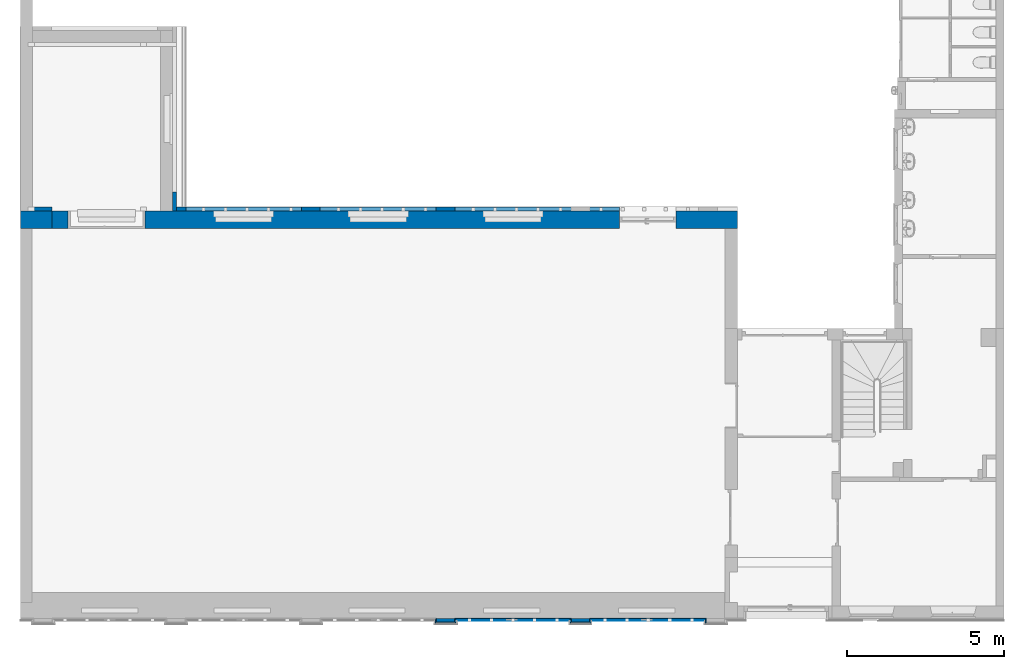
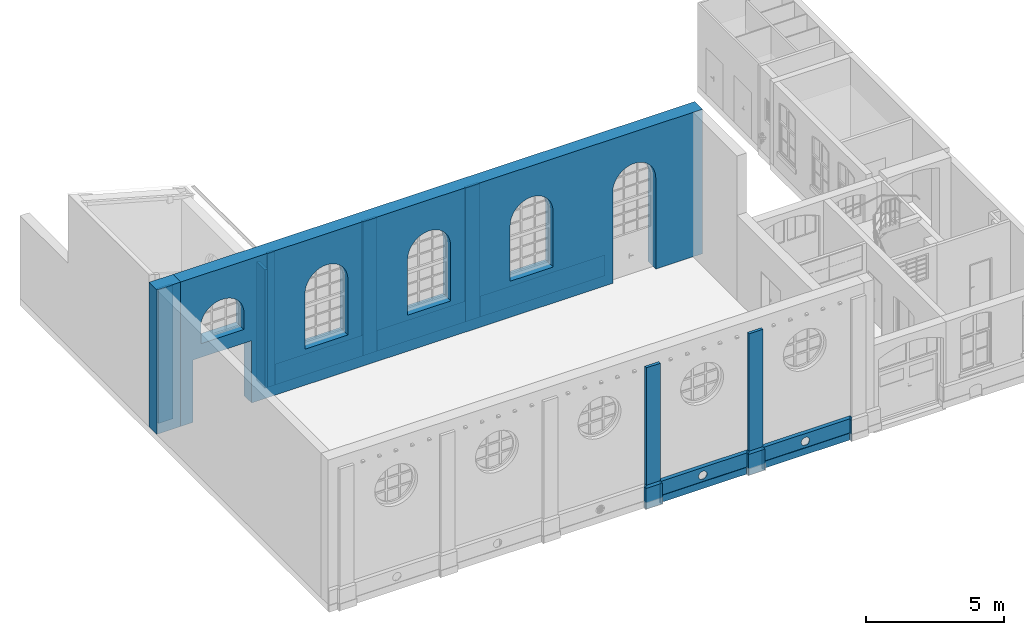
"""IFC4 building model written with IfcOpenShell, lengths in metres."""

import ifcopenshell
import ifcopenshell.guid

model = None  # the IFC model being written
_history = None  # IfcOwnerHistory: only IFC2X3 demands one
_inside = {}  # id of a spatial element -> (the spatial element, [elements in it])
_under = {}  # id of a project, library or spatial element -> (it, [spatial elements below it])
_declared = {}  # id of a project -> (the project, [libraries it declares])
_typed = {}  # id of a type object -> (the type object, [elements of that type])
_made_of = {}  # id of a material, layer set ... -> (it, [elements and type objects made of it])


def new_model(schema):
    """Start an empty IFC model of exactly this schema.

    Asked for "IFC4X3", IfcOpenShell would pick the latest addendum, in which some entities
    have other attributes; the version numbers below select the first issue.
    IFC2X3 requires an IfcOwnerHistory on every rooted entity: one is made here for all.
    """
    global model, _history
    if schema == "IFC4X3":
        model = ifcopenshell.file(schema_version=(4, 3, 0, 0))
    else:
        model = ifcopenshell.file(schema=schema)
    _inside.clear()
    _under.clear()
    _declared.clear()
    _typed.clear()
    _made_of.clear()
    _history = None
    if model.schema == "IFC2X3":
        org = make("IfcOrganization", Name="unknown")
        user = make(
            "IfcPersonAndOrganization",
            ThePerson=make("IfcPerson", FamilyName="unknown"),
            TheOrganization=org,
        )
        app = make(
            "IfcApplication",
            ApplicationDeveloper=org,
            Version="unknown",
            ApplicationFullName="unknown",
            ApplicationIdentifier="unknown",
        )
        _history = make(
            "IfcOwnerHistory",
            OwningUser=user,
            OwningApplication=app,
            ChangeAction="ADDED",
            CreationDate=0,
        )
    return model


def make(cls, **values):
    """One entity of the class cls with the attributes given. An attribute that is None is left unset."""
    return model.create_entity(
        cls, **{name: value for name, value in values.items() if value is not None}
    )


def entity(cls, *values):
    """Any entity or typed value of the class cls, its attributes in the order of the schema. None: left unset."""
    e = model.create_entity(cls)
    for i, value in enumerate(values):
        if value is not None:
            e[i] = value
    return e


def rooted(cls, **values):
    """An entity with a GlobalId (a new one), such as an element, a storey or a relation."""
    return make(cls, GlobalId=ifcopenshell.guid.new(), OwnerHistory=_history, **values)


def si_unit(unit_type, name, prefix=None):
    """IfcSIUnit, for example si_unit("LENGTHUNIT", "METRE", prefix="MILLI")."""
    return make("IfcSIUnit", UnitType=unit_type, Prefix=prefix, Name=name)


def converted_unit(unit_type, name, factor, base, dimensions=None, offset=None):
    """IfcConversionBasedUnit, such as the inch: factor (a typed value) times the base unit."""
    return make(
        "IfcConversionBasedUnit"
        if offset is None
        else "IfcConversionBasedUnitWithOffset",
        ConversionOffset=offset,
        Dimensions=None
        if dimensions is None
        else entity("IfcDimensionalExponents", *dimensions),
        UnitType=unit_type,
        Name=name,
        ConversionFactor=make(
            "IfcMeasureWithUnit", ValueComponent=factor, UnitComponent=base
        ),
    )


def derived_unit(unit_type, elements):
    """IfcDerivedUnit: a product of units, each with its exponent."""
    return make(
        "IfcDerivedUnit",
        Elements=[
            make("IfcDerivedUnitElement", Unit=unit, Exponent=power)
            for unit, power in elements
        ],
        UnitType=unit_type,
    )


def assignment(units):
    """IfcUnitAssignment: the units of a project."""
    return None if units is None else make("IfcUnitAssignment", Units=units)


def point(xyz):
    """IfcCartesianPoint."""
    return None if xyz is None else make("IfcCartesianPoint", Coordinates=xyz)


def direction(xyz):
    """IfcDirection."""
    return None if xyz is None else make("IfcDirection", DirectionRatios=xyz)


def frame(location, z_axis=None, x_axis=None):
    """IfcAxis2Placement3D, a coordinate frame: its origin and axes. An axis left out is left unset."""
    return make(
        "IfcAxis2Placement3D",
        Location=point(location),
        Axis=direction(z_axis),
        RefDirection=direction(x_axis),
    )


def frame_2d(location, x_axis=None):
    """IfcAxis2Placement2D, a coordinate frame in the plane: its origin and x axis."""
    return make(
        "IfcAxis2Placement2D", Location=point(location), RefDirection=direction(x_axis)
    )


def origin():
    """The frame at (0, 0, 0) with its axes left unset."""
    return frame((0.0, 0.0, 0.0))


def origin_with_axes():
    """The frame at (0, 0, 0) with the z axis (0, 0, 1) and the x axis (1, 0, 0) written out."""
    return frame((0.0, 0.0, 0.0), z_axis=(0.0, 0.0, 1.0), x_axis=(1.0, 0.0, 0.0))


def place(relative_to, where):
    """IfcLocalPlacement: puts the frame where relative to a parent placement (None: the world)."""
    return make(
        "IfcLocalPlacement", PlacementRelTo=relative_to, RelativePlacement=where
    )


def context(
    kind, dimensions, precision=None, world=None, true_north=None, identifier=None
):
    """IfcGeometricRepresentationContext, for example the 3D "Model" context."""
    return make(
        "IfcGeometricRepresentationContext",
        ContextIdentifier=identifier,
        ContextType=kind,
        CoordinateSpaceDimension=dimensions,
        Precision=precision,
        WorldCoordinateSystem=world,
        TrueNorth=true_north,
    )


def subcontext(parent, identifier, kind, view, scale=None):
    """IfcGeometricRepresentationSubContext, for example "Body" below "Model"."""
    return make(
        "IfcGeometricRepresentationSubContext",
        ContextIdentifier=identifier,
        ContextType=kind,
        ParentContext=parent,
        TargetScale=scale,
        TargetView=view,
    )


def project(units=None, contexts=None):
    """IfcProject with its units and contexts."""
    return rooted(
        "IfcProject",
        Name="project",
        RepresentationContexts=contexts,
        UnitsInContext=assignment(units),
    )


def spatial(cls, under=None, at=None, **own):
    """A site, building, storey or space (cls), placed at a placement, below another one or the project."""
    s = rooted(cls, ObjectPlacement=at, **own)
    if under is not None:
        _under.setdefault(under.id(), (under, []))[1].append(s)
    return s


def polyline(points):
    """IfcPolyline through the points."""
    return make("IfcPolyline", Points=[point(p) for p in points])


def profile(cls, at=None, kind="AREA", **sizes):
    """A parametric profile (cls). Its sizes go by their IFC names, for example OverallWidth=200.0."""
    return make(cls, ProfileType=kind, Position=at, **sizes)


def rectangle(**sizes):
    """IfcRectangleProfileDef."""
    return profile("IfcRectangleProfileDef", **sizes)


def outline(outer, holes=None, kind="AREA"):
    """IfcArbitraryClosedProfileDef: a profile drawn as a closed curve; with holes, ...WithVoids."""
    if holes is None:
        return make("IfcArbitraryClosedProfileDef", ProfileType=kind, OuterCurve=outer)
    return make(
        "IfcArbitraryProfileDefWithVoids",
        ProfileType=kind,
        OuterCurve=outer,
        InnerCurves=holes,
    )


def extrude(swept, where, along, depth):
    """IfcExtrudedAreaSolid: the profile swept, set in the frame where, extruded along a direction by depth."""
    return make(
        "IfcExtrudedAreaSolid",
        SweptArea=swept,
        Position=where,
        ExtrudedDirection=direction(along),
        Depth=depth,
    )


def clip(a, b, op="DIFFERENCE"):
    """IfcBooleanClippingResult: the solid a cut by the half space b."""
    return make(
        "IfcBooleanClippingResult", Operator=op, FirstOperand=a, SecondOperand=b
    )


def halfspace(plane, agree):
    """IfcHalfSpaceSolid: all space on one side of the plane z = 0 of the frame plane."""
    return make(
        "IfcHalfSpaceSolid",
        BaseSurface=make("IfcPlane", Position=plane),
        AgreementFlag=agree,
    )


def shape(context_of_items, identifier, shape_type, items):
    """IfcShapeRepresentation: the items that make up one representation, for example the "Body"."""
    return make(
        "IfcShapeRepresentation",
        ContextOfItems=context_of_items,
        RepresentationIdentifier=identifier,
        RepresentationType=shape_type,
        Items=items,
    )


def material(Name=None, Category=None):
    """IfcMaterial."""
    return make("IfcMaterial", Name=Name, Category=Category)


def layer(
    of_material, thickness, ventilated=None, Name=None, Category=None, Priority=None
):
    """IfcMaterialLayer: one layer of a wall or slab, of a material (None: an air gap)."""
    return make(
        "IfcMaterialLayer",
        Material=of_material,
        LayerThickness=thickness,
        IsVentilated=ventilated,
        Name=Name,
        Category=Category,
        Priority=Priority,
    )


def layer_set(layers, Name=None):
    """IfcMaterialLayerSet."""
    return make("IfcMaterialLayerSet", MaterialLayers=layers, LayerSetName=Name)


def layer_usage(for_layer_set, set_direction, sense, offset, extent=None):
    """IfcMaterialLayerSetUsage: how a layer set lies in its element."""
    return make(
        "IfcMaterialLayerSetUsage",
        ForLayerSet=for_layer_set,
        LayerSetDirection=set_direction,
        DirectionSense=sense,
        OffsetFromReferenceLine=offset,
        ReferenceExtent=extent,
    )


def made_of(thing, what):
    """Note that an element or type object is made of a material, layer set ...; save() writes the relation."""
    if what is not None:
        _made_of.setdefault(what.id(), (what, []))[1].append(thing)
    return thing


def element(
    cls,
    number,
    at=None,
    inside=None,
    cuts=None,
    type_object=None,
    material=None,
    context=None,
    identifier="Body",
    shape_type=None,
    held_by="IfcProductDefinitionShape",
    body=None,
    shapes=None,
    **own,
):
    """One element of the class cls, such as IfcWall. Its Tag is "e" and its number.

    at: its placement. inside: the storey or other place that contains it. cuts: it is an
    opening in that element (IfcRelVoidsElement). A single representation is given by context,
    identifier, shape_type and body (its items); several are given by shapes. held_by: the class
    of the entity that holds the representations. save() writes the other relations.
    """
    e = rooted(cls, Tag="e%d" % number, ObjectPlacement=at, **own)
    if body is not None:
        shapes = [shape(context, identifier, shape_type, body)]
    if shapes is not None:
        e.Representation = make(held_by, Representations=shapes)
    if inside is not None:
        _inside.setdefault(inside.id(), (inside, []))[1].append(e)
    if cuts is not None:
        rooted(
            "IfcRelVoidsElement", RelatingBuildingElement=cuts, RelatedOpeningElement=e
        )
    if type_object is not None:
        _typed.setdefault(type_object.id(), (type_object, []))[1].append(e)
    return made_of(e, material)


def aggregate(whole, parts):
    """IfcRelAggregates: a whole, such as a stair, and the parts it consists of."""
    return rooted("IfcRelAggregates", RelatingObject=whole, RelatedObjects=parts)


def save(model, path):
    """Write the relations noted so far, then the file.

    IfcRelAggregates (storeys below a building ...), IfcRelContainedInSpatialStructure (elements
    in a storey), IfcRelDefinesByType, IfcRelAssociatesMaterial and IfcRelDeclares: one each for
    every whole, place, type object, material and project.
    """
    for whole, parts in _under.values():
        aggregate(whole, parts)
    for where, things in _inside.values():
        rooted(
            "IfcRelContainedInSpatialStructure",
            RelatedElements=things,
            RelatingStructure=where,
        )
    for kind, things in _typed.values():
        rooted("IfcRelDefinesByType", RelatedObjects=things, RelatingType=kind)
    for what, things in _made_of.values():
        rooted("IfcRelAssociatesMaterial", RelatedObjects=things, RelatingMaterial=what)
    for by, libraries in _declared.values():
        rooted("IfcRelDeclares", RelatingContext=by, RelatedDefinitions=libraries)
    model.write(path)


model = new_model("IFC4")

# Units and contexts
model_context = context("Model", 3, precision=1e-05, world=origin())
body_context = subcontext(model_context, "Body", "Model", "MODEL_VIEW")
ifc_project = project(units=[si_unit("LENGTHUNIT", "METRE"), si_unit("AREAUNIT", "SQUARE_METRE"), si_unit("VOLUMEUNIT", "CUBIC_METRE"), si_unit("MASSUNIT", "GRAM", prefix="KILO"), converted_unit("PLANEANGLEUNIT", "DEGREE", entity("IfcPlaneAngleMeasure", 0.0174532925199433), si_unit("PLANEANGLEUNIT", "RADIAN"), dimensions=[0, 0, 0, 0, 0, 0, 0]), derived_unit("THERMALTRANSMITTANCEUNIT", [(si_unit("POWERUNIT", "WATT"), 1), (si_unit("THERMODYNAMICTEMPERATUREUNIT", "KELVIN"), -1), (si_unit("LENGTHUNIT", "METRE"), -2)]), derived_unit("VOLUMETRICFLOWRATEUNIT", [(si_unit("LENGTHUNIT", "METRE"), 3), (converted_unit("TIMEUNIT", "hour", entity("IfcTimeMeasure", 3600.0), si_unit("TIMEUNIT", "SECOND"), dimensions=[0, 0, 1, 0, 0, 0, 0]), -1), (si_unit("LENGTHUNIT", "METRE"), -1)])], contexts=[model_context])

# Building, storeys
building_placement = place(None, origin())
building = spatial("IfcBuilding", under=ifc_project, at=building_placement, Name="Bestandsgebäude A - Sporthalle / Wohnhaus (TB 100-499)   ANPASSEN !!!", CompositionType="ELEMENT")
storey_1_placement = place(building_placement, origin())
storey_1 = spatial("IfcBuildingStorey", under=building, at=storey_1_placement, Name="Geb. A Erdgeschoss (TB 200-249)", CompositionType="ELEMENT", Elevation=0.0)
storey_2_placement = place(storey_1_placement, origin())
storey_2 = spatial("IfcBuildingStorey", under=storey_1, at=storey_2_placement, Name="Architektur (TB 200-209)", CompositionType="PARTIAL")

# Wall, openings
ifc_material_1 = material(Name="concrete")
ifc_layer_1 = layer(ifc_material_1, 0.56)
ifc_layer_set_1 = layer_set([ifc_layer_1])
ifc_layer_usage_1 = layer_usage(ifc_layer_set_1, "AXIS2", "POSITIVE", 0.0)
wall_1_placement = place(storey_2_placement, frame((-8.5, 13.0, 0.0), z_axis=(0.0, 0.0, 1.0), x_axis=(-1.0, 1.66345624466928e-16, 0.0)))
wall_1 = element("IfcWall", 1, at=wall_1_placement, inside=storey_2, material=ifc_layer_usage_1, Name="reinforced - bearing", PredefinedType="USERDEFINED", context=body_context, shape_type="SweptSolid", body=[
    extrude(rectangle(XDim=21.87, YDim=0.56, at=frame_2d((10.935, 0.28), x_axis=(1.0, 0.0))), origin_with_axes(), (0.0, 0.0, 1.0), 6.4),
])
opening_1_placement = place(wall_1_placement, frame((1.95999999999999, 0.0, 0.0), z_axis=(0.0, 1.0, 0.0), x_axis=(0.0, 0.0, 1.0)))
element("IfcOpeningElement", 2, at=opening_1_placement, cuts=wall_1, Name="Door opening", PredefinedType="OPENING", context=body_context, shape_type="SweptSolid", body=[
    extrude(outline(polyline([(4.03999999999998, 1.8), (4.1403473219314, 1.79506970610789), (4.23959521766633, 1.78033284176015), (4.33665630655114, 1.7559508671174), (4.4304671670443, 1.72219091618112), (4.51999998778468, 1.67942287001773), (4.60427382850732, 1.62811530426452), (4.68236536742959, 1.56883035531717), (4.75341901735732, 1.5022175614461), (4.81665629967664, 1.42900674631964), (4.87138437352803, 1.35000002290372), (4.91700362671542, 1.26606300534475), (4.95301424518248, 1.17811532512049), (4.97902168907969, 1.08712055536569), (4.99474101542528, 0.994075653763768), (5.0, 0.900000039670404), (4.99474102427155, 0.805924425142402), (4.9790217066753, 0.71287952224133), (4.95301427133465, 0.621884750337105), (4.91700366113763, 0.533937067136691), (4.87138441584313, 0.450000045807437), (4.81665634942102, 0.370993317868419), (4.75341907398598, 0.297782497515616), (4.68236543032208, 0.231169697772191), (4.60427389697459, 0.171884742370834), (4.52000006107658, 0.120577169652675), (4.43046724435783, 0.0778091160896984), (4.33665638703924, 0.0440491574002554), (4.23959530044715, 0.0196671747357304), (4.14034740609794, 0.00493030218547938), (4.04000008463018, 0.0), (0.0, 0.0), (0.0, 1.8), (4.03999999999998, 1.8)])), origin_with_axes(), (0.0, 0.0, 1.0), 0.56),
])
opening_2_placement = place(wall_1_placement, frame((6.26357142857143, 0.0, 1.6), z_axis=(0.0, 1.0, 0.0), x_axis=(0.0, 0.0, 1.0)))
element("IfcOpeningElement", 3, at=opening_2_placement, cuts=wall_1, Name="Window opening", PredefinedType="OPENING", context=body_context, shape_type="SweptSolid", body=[
    extrude(outline(polyline([(2.46000001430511, 1.7964285), (2.56034733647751, 1.79150798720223), (2.65959523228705, 1.77680036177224), (2.75665632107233, 1.75246676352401), (2.8504671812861, 1.71877379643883), (2.94000000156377, 1.67609060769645), (3.02427384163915, 1.62488484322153), (3.10236537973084, 1.56571752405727), (3.17341902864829, 1.49923689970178), (3.23665630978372, 1.42617134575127), (3.29138438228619, 1.34732138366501), (3.33700363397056, 1.2635509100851), (3.37301425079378, 1.17577773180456), (3.39902169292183, 1.08496351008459), (3.41474101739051, 0.992103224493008), (3.42, 0.898214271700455), (3.4147410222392, 0.804325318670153), (3.39902170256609, 0.711465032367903), (3.37301426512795, 0.620650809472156), (3.33700365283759, 0.532877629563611), (3.29138440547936, 0.449107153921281), (3.23665633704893, 0.370257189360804), (3.17341905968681, 0.297191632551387), (3.10236541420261, 0.230711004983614), (3.0242738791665, 0.17154368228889), (2.94000004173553, 0.120337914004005), (2.85046722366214, 0.0776547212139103), (2.75665636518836, 0.0439617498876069), (2.65959527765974, 0.0196281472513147), (2.56034738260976, 0.00492051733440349), (2.46000006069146, 0.0), (0.0, 0.0), (0.0, 1.7964285), (2.46000001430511, 1.7964285)])), origin_with_axes(), (0.0, 0.0, 1.0), 0.56),
])
opening_3_placement = place(wall_1_placement, frame((10.56, 0.0, 1.6), z_axis=(0.0, 1.0, 0.0), x_axis=(0.0, 0.0, 1.0)))
element("IfcOpeningElement", 4, at=opening_3_placement, cuts=wall_1, Name="Window opening", PredefinedType="OPENING", context=body_context, shape_type="SweptSolid", body=[
    extrude(outline(polyline([(2.46000001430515, 1.7964285), (2.56034733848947, 1.79150798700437), (2.65959523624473, 1.77680036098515), (2.75665632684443, 1.75246676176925), (2.85046718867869, 1.71877379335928), (2.94000001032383, 1.67609060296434), (3.02427385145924, 1.62488483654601), (3.10236539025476, 1.56571751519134), (3.17341903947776, 1.49923688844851), (3.23665632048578, 1.42617133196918), (3.29138439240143, 1.3473213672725), (3.33700364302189, 1.2635508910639), (3.37301425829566, 1.17577771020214), (3.39902169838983, 1.08496348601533), (3.41474102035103, 0.992103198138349), (3.42, 0.898214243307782), (3.41474101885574, 0.804325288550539), (3.39902169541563, 0.711465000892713), (3.37301425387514, 0.620650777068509), (3.33700363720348, 0.532877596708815), (3.29138438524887, 0.449107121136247), (3.23665631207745, 0.370257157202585), (3.17341902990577, 0.297191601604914), (3.10236537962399, 0.230710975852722), (3.02427383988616, 0.171543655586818), (2.93999999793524, 0.120337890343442), (2.85046717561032, 0.077654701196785), (2.75665631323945, 0.0439617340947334), (2.6595952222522, 0.0196281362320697), (2.56034732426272, 0.00492051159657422), (2.46, 0.0), (0.0, 0.0), (0.0, 1.7964285), (2.46000001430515, 1.7964285)])), origin_with_axes(), (0.0, 0.0, 1.0), 0.56),
])
opening_4_placement = place(wall_1_placement, frame((14.86, 0.0, 1.6), z_axis=(0.0, 1.0, 0.0), x_axis=(0.0, 0.0, 1.0)))
element("IfcOpeningElement", 5, at=opening_4_placement, cuts=wall_1, Name="Window opening", PredefinedType="OPENING", context=body_context, shape_type="SweptSolid", body=[
    extrude(outline(polyline([(2.46000001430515, 1.7964285), (2.56034733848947, 1.79150798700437), (2.65959523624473, 1.77680036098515), (2.75665632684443, 1.75246676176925), (2.85046718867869, 1.71877379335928), (2.94000001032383, 1.67609060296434), (3.02427385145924, 1.62488483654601), (3.10236539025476, 1.56571751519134), (3.17341903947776, 1.49923688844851), (3.23665632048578, 1.42617133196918), (3.29138439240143, 1.3473213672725), (3.3370036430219, 1.2635508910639), (3.37301425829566, 1.17577771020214), (3.39902169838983, 1.08496348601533), (3.41474102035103, 0.992103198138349), (3.42, 0.898214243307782), (3.41474101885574, 0.804325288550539), (3.39902169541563, 0.711465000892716), (3.37301425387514, 0.620650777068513), (3.33700363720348, 0.532877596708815), (3.29138438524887, 0.449107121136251), (3.23665631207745, 0.370257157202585), (3.17341902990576, 0.297191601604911), (3.10236537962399, 0.230710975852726), (3.02427383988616, 0.171543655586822), (2.93999999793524, 0.120337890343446), (2.85046717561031, 0.077654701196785), (2.75665631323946, 0.0439617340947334), (2.6595952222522, 0.0196281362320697), (2.56034732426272, 0.00492051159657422), (2.46, 0.0), (0.0, 0.0), (0.0, 1.7964285), (2.46000001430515, 1.7964285)])), origin_with_axes(), (0.0, 0.0, 1.0), 0.560000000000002),
])
opening_5_placement = place(wall_1_placement, frame((19.225, 0.0, 3.37), z_axis=(0.0, 1.0, 0.0), x_axis=(0.0, 0.0, 1.0)))
element("IfcOpeningElement", 6, at=opening_5_placement, cuts=wall_1, Name="Window opening", PredefinedType="OPENING", context=body_context, shape_type="SweptSolid", body=[
    extrude(outline(polyline([(0.850000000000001, 1.8), (0.936562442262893, 1.78550122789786), (1.02131640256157, 1.762696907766), (1.10346693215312, 1.73180093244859), (1.18224350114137, 1.69310309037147), (1.25690722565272, 1.64696634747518), (1.32675779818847, 1.59382344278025), (1.39114005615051, 1.53417282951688), (1.44945012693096, 1.46857399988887), (1.501141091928, 1.39764223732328), (1.54572811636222, 1.32204284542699), (1.58279299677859, 1.2424849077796), (1.61198808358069, 1.15971463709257), (1.63303954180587, 1.07450837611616), (1.64574991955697, 0.98766531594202), (1.65, 0.9), (1.64574991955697, 0.81233468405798), (1.63303954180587, 0.725491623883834), (1.61198808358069, 0.640285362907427), (1.58279299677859, 0.557515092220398), (1.54572811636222, 0.47795715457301), (1.501141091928, 0.402357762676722), (1.44945012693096, 0.331426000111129), (1.3911400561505, 0.265827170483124), (1.32675779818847, 0.206176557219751), (1.25690722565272, 0.153033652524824), (1.18224350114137, 0.106896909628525), (1.10346693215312, 0.0681990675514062), (1.02131640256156, 0.0373030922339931), (0.936562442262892, 0.0144987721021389), (0.85, 0.0), (0.0, 0.0), (0.0, 1.8), (0.850000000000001, 1.8)])), origin_with_axes(), (0.0, 0.0, 1.0), 0.56),
])
opening_6_placement = place(wall_1_placement, frame((21.35, 0.56, 0.0), z_axis=(0.0, -1.0, 0.0), x_axis=(0.0, 0.0, 1.0)))
element("IfcOpeningElement", 7, at=opening_6_placement, cuts=wall_1, Name="Door opening", PredefinedType="OPENING", context=body_context, shape_type="SweptSolid", body=[
    extrude(outline(polyline([(2.76, 2.45), (2.76, 0.0), (0.0, 0.0), (0.0, 2.45), (2.76, 2.45)])), origin_with_axes(), (0.0, 0.0, 1.0), 0.56),
])

# Walls
ifc_material_2 = material(Name="concrete")
ifc_layer_2 = layer(ifc_material_2, 0.56)
ifc_layer_set_2 = layer_set([ifc_layer_2])
ifc_layer_usage_2 = layer_usage(ifc_layer_set_2, "AXIS2", "POSITIVE", 0.0)
wall_2_placement = place(storey_2_placement, frame((-30.37, 13.0, 0.0), z_axis=(0.0, 0.0, 1.0), x_axis=(-1.0, 0.0, 0.0)))
element("IfcWall", 8, at=wall_2_placement, inside=storey_2, material=ifc_layer_usage_2, Name="reinforced - bearing", PredefinedType="USERDEFINED", context=body_context, shape_type="SweptSolid", body=[
    extrude(rectangle(XDim=1.0, YDim=0.56, at=frame_2d((0.500000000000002, 0.28), x_axis=(1.0, 0.0))), origin_with_axes(), (0.0, 0.0, 1.0), 6.4),
])
ifc_material_3 = material(Name="concrete")
ifc_layer_3 = layer(ifc_material_3, 0.12)
ifc_layer_set_3 = layer_set([ifc_layer_3])
ifc_layer_usage_3 = layer_usage(ifc_layer_set_3, "AXIS2", "POSITIVE", 0.0)
wall_3_placement = place(storey_2_placement, frame((-26.4, 13.0, 0.0), z_axis=(0.0, 0.0, 1.0), x_axis=(0.0, 1.0, 0.0)))
element("IfcWall", 9, at=wall_3_placement, inside=storey_2, material=ifc_layer_usage_3, Name="reinforced - bearing", PredefinedType="USERDEFINED", context=body_context, shape_type="SweptSolid", body=[
    extrude(rectangle(XDim=0.600000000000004, YDim=0.12, at=frame_2d((0.300000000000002, 0.06), x_axis=(1.0, 0.0))), origin_with_axes(), (0.0, 0.0, 1.0), 5.25),
])
ifc_material_4 = material(Name="concrete")
ifc_layer_4 = layer(ifc_material_4, 0.02)
ifc_layer_set_4 = layer_set([ifc_layer_4])
ifc_layer_usage_4 = layer_usage(ifc_layer_set_4, "AXIS2", "POSITIVE", 0.0)
wall_4_placement = place(storey_2_placement, frame((-13.875, -0.0500000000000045, -0.3), z_axis=(0.0, 0.0, 1.0), x_axis=(-1.0, -6.16997893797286e-17, 0.0)))
element("IfcWall", 10, at=wall_4_placement, inside=storey_2, material=ifc_layer_usage_4, Name="reinforced - bearing", PredefinedType="USERDEFINED", context=body_context, shape_type="SweptSolid", body=[
    extrude(rectangle(XDim=3.57, YDim=0.02, at=frame_2d((1.785, 0.01), x_axis=(1.0, 0.0))), origin_with_axes(), (0.0, 0.0, 1.0), 0.3),
])
ifc_material_5 = material(Name="concrete")
ifc_layer_5 = layer(ifc_material_5, 0.05)
ifc_layer_set_5 = layer_set([ifc_layer_5])
ifc_layer_usage_5 = layer_usage(ifc_layer_set_5, "AXIS2", "POSITIVE", 0.0)
wall_5_placement = place(storey_2_placement, frame((-18.105, -0.119999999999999, -0.3), z_axis=(0.0, 0.0, 1.0), x_axis=(0.0, 1.0, 0.0)))
element("IfcWall", 11, at=wall_5_placement, inside=storey_2, material=ifc_layer_usage_5, Name="reinforced - bearing", PredefinedType="USERDEFINED", context=body_context, shape_type="Clipping", body=[
    clip(extrude(outline(polyline([(0.05, -0.05), (0.170000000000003, -0.05), (0.119999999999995, 0.0), (0.0, 0.0), (0.05, -0.05)])), frame((-0.05, 0.05, 0.0), z_axis=(0.0, 0.0, 1.0), x_axis=(1.0, 0.0, 0.0)), (0.0, 0.0, 1.0), 1.02), halfspace(frame((0.0349999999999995, 0.025, 0.97), z_axis=(0.0, -0.894427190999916, -0.447213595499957), x_axis=(1.0, 0.0, 0.0)), True)),
])
ifc_material_6 = material(Name="concrete")
ifc_layer_6 = layer(ifc_material_6, 0.05)
ifc_layer_set_6 = layer_set([ifc_layer_6])
ifc_layer_usage_6 = layer_usage(ifc_layer_set_6, "AXIS2", "POSITIVE", 0.0)
wall_6_placement = place(storey_2_placement, frame((-17.515, 0.0, -0.3), z_axis=(0.0, 0.0, 1.0), x_axis=(0.0, -1.0, 0.0)))
element("IfcWall", 12, at=wall_6_placement, inside=storey_2, material=ifc_layer_usage_6, Name="reinforced - bearing", PredefinedType="USERDEFINED", context=body_context, shape_type="Clipping", body=[
    clip(extrude(outline(polyline([(-0.170000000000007, 0.0), (-0.050000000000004, 0.0), (0.0, 0.05), (-0.119999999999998, 0.05), (-0.170000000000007, 0.0)])), frame((0.170000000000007, 0.0, 0.0), z_axis=(0.0, 0.0, 1.0), x_axis=(1.0, 0.0, 0.0)), (0.0, 0.0, 1.0), 1.01999999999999), halfspace(frame((0.0850000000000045, 0.025, 0.969999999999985), z_axis=(8.30424224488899e-16, -0.894427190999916, -0.447213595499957), x_axis=(1.0, 0.0, 1.89478062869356e-15)), True)),
])
ifc_material_7 = material(Name="concrete")
ifc_layer_7 = layer(ifc_material_7, 0.05)
ifc_layer_set_7 = layer_set([ifc_layer_7])
ifc_layer_usage_7 = layer_usage(ifc_layer_set_7, "AXIS2", "POSITIVE", 0.0)
wall_7_placement = place(storey_2_placement, frame((-17.515, -0.119999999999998, -0.3), z_axis=(0.0, 0.0, 1.0), x_axis=(-1.0, 5.05810083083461e-16, 0.0)))
element("IfcWall", 13, at=wall_7_placement, inside=storey_2, material=ifc_layer_usage_7, Name="reinforced - bearing", PredefinedType="USERDEFINED", context=body_context, shape_type="Clipping", body=[
    clip(extrude(outline(polyline([(-0.64, -0.0500000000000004), (-0.05, -0.0500000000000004), (0.0, 0.0), (-0.689999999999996, 0.0), (-0.64, -0.0500000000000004)])), frame((0.64, 0.0500000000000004, 0.0), z_axis=(0.0, 0.0, 1.0), x_axis=(1.0, 0.0, 0.0)), (0.0, 0.0, 1.0), 1.02), halfspace(frame((0.295000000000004, 0.025, 0.97), z_axis=(3.66415308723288e-16, -0.894427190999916, -0.447213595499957), x_axis=(1.0, 0.0, 7.70758221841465e-16)), True)),
])
ifc_material_8 = material(Name="concrete")
ifc_layer_8 = layer(ifc_material_8, 0.05)
ifc_layer_set_8 = layer_set([ifc_layer_8])
ifc_layer_usage_8 = layer_usage(ifc_layer_set_8, "AXIS2", "POSITIVE", 0.0)
wall_8_placement = place(storey_2_placement, frame((-13.805, -0.119999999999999, -0.3), z_axis=(0.0, 0.0, 1.0), x_axis=(0.0, 1.0, 0.0)))
element("IfcWall", 14, at=wall_8_placement, inside=storey_2, material=ifc_layer_usage_8, Name="reinforced - bearing", PredefinedType="USERDEFINED", context=body_context, shape_type="Clipping", body=[
    clip(extrude(outline(polyline([(0.0500000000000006, -0.05), (0.170000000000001, -0.05), (0.119999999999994, 0.0), (0.0, 0.0), (0.0500000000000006, -0.05)])), frame((-0.0500000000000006, 0.05, 0.0), z_axis=(0.0, 0.0, 1.0), x_axis=(1.0, 0.0, 0.0)), (0.0, 0.0, 1.0), 1.02), halfspace(frame((0.0349999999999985, 0.025, 0.970000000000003), z_axis=(-4.15212112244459e-16, -0.894427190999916, -0.447213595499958), x_axis=(1.0, 0.0, -9.47390314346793e-16)), True)),
])
ifc_material_9 = material(Name="concrete")
ifc_layer_9 = layer(ifc_material_9, 0.05)
ifc_layer_set_9 = layer_set([ifc_layer_9])
ifc_layer_usage_9 = layer_usage(ifc_layer_set_9, "AXIS2", "POSITIVE", 0.0)
wall_9_placement = place(storey_2_placement, frame((-13.215, 0.0, -0.3), z_axis=(0.0, 0.0, 1.0), x_axis=(0.0, -1.0, 0.0)))
element("IfcWall", 15, at=wall_9_placement, inside=storey_2, material=ifc_layer_usage_9, Name="reinforced - bearing", PredefinedType="USERDEFINED", context=body_context, shape_type="Clipping", body=[
    clip(extrude(outline(polyline([(-0.170000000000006, 0.0), (-0.0500000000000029, 0.0), (0.0, 0.05), (-0.119999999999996, 0.05), (-0.170000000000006, 0.0)])), frame((0.170000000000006, 0.0, 0.0), z_axis=(0.0, 0.0, 1.0), x_axis=(1.0, 0.0, 0.0)), (0.0, 0.0, 1.0), 1.01999999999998), halfspace(frame((0.0850000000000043, 0.025, 0.969999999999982), z_axis=(8.30424224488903e-16, -0.894427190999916, -0.447213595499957), x_axis=(1.0, 0.0, 2.84217094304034e-15)), True)),
])
ifc_material_10 = material(Name="concrete")
ifc_layer_10 = layer(ifc_material_10, 0.05)
ifc_layer_set_10 = layer_set([ifc_layer_10])
ifc_layer_usage_10 = layer_usage(ifc_layer_set_10, "AXIS2", "POSITIVE", 0.0)
wall_10_placement = place(storey_2_placement, frame((-13.215, -0.119999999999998, -0.3), z_axis=(0.0, 0.0, 1.0), x_axis=(-1.0, 5.05810083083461e-16, 0.0)))
element("IfcWall", 16, at=wall_10_placement, inside=storey_2, material=ifc_layer_usage_10, Name="reinforced - bearing", PredefinedType="USERDEFINED", context=body_context, shape_type="Clipping", body=[
    clip(extrude(outline(polyline([(-0.64, -0.0500000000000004), (-0.05, -0.0500000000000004), (0.0, 0.0), (-0.689999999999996, 0.0), (-0.64, -0.0500000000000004)])), frame((0.64, 0.0500000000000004, 0.0), z_axis=(0.0, 0.0, 1.0), x_axis=(1.0, 0.0, 0.0)), (0.0, 0.0, 1.0), 1.02), halfspace(frame((0.295, 0.025, 0.97), z_axis=(3.21133885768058e-16, -0.894427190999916, -0.447213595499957), x_axis=(1.0, 0.0, 7.70758221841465e-16)), True)),
])

# Wall, opening
ifc_material_11 = material(Name="concrete")
ifc_layer_11 = layer(ifc_material_11, 0.05)
ifc_layer_set_11 = layer_set([ifc_layer_11])
ifc_layer_usage_11 = layer_usage(ifc_layer_set_11, "AXIS2", "POSITIVE", 0.0)
wall_11_placement = place(storey_2_placement, frame((-13.805, 0.0, -0.3), z_axis=(0.0, 0.0, 1.0), x_axis=(-1.0, 4.89858719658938e-16, 0.0)))
wall_11 = element("IfcWall", 17, at=wall_11_placement, inside=storey_2, material=ifc_layer_usage_11, Name="reinforced - bearing", PredefinedType="USERDEFINED", context=body_context, shape_type="Clipping", body=[
    clip(extrude(outline(polyline([(-3.71, -0.0500000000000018), (0.0, -0.0500000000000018), (-0.05, 0.0), (-3.66000000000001, 0.0), (-3.71, -0.0500000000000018)])), frame((3.71, 0.0500000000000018, 0.0), z_axis=(0.0, 0.0, 1.0), x_axis=(1.0, 0.0, 0.0)), (0.0, 0.0, 1.0), 1.02), halfspace(frame((1.855, 0.025, 0.970000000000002), z_axis=(4.51973522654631e-16, -0.894427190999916, -0.447213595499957), x_axis=(1.0, 5.22684654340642e-19, 1.01123063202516e-15)), True)),
])
opening_7_placement = place(wall_11_placement, frame((1.71997408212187, 0.0, 0.4), z_axis=(0.0, 1.0, 0.0), x_axis=(0.0, 0.0, 1.0)))
element("IfcOpeningElement", 18, at=opening_7_placement, cuts=wall_11, Name="Window opening", PredefinedType="OPENING", context=body_context, shape_type="SweptSolid", body=[
    extrude(outline(polyline([(0.175, 0.35), (0.193292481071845, 0.349041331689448), (0.211384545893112, 0.346175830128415), (0.229077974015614, 0.341434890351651), (0.246178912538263, 0.334870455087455), (0.262499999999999, 0.326554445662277), (0.277862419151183, 0.316577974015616), (0.292097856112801, 0.305050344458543), (0.305050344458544, 0.292097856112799), (0.316577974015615, 0.277862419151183), (0.326554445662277, 0.2625), (0.334870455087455, 0.246178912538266), (0.341434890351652, 0.229077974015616), (0.346175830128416, 0.211384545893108), (0.349041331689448, 0.19329248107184), (0.35, 0.175), (0.349041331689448, 0.156707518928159), (0.346175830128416, 0.138615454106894), (0.341434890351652, 0.120922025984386), (0.334870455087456, 0.103821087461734), (0.326554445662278, 0.0875), (0.316577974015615, 0.0721375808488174), (0.305050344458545, 0.0579021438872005), (0.2920978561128, 0.0449496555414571), (0.277862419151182, 0.0334220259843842), (0.2625, 0.0234455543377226), (0.246178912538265, 0.0151295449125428), (0.229077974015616, 0.00856510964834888), (0.211384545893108, 0.00382416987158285), (0.193292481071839, 0.000958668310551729), (0.175, 0.0), (0.156707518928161, 0.000958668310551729), (0.138615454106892, 0.00382416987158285), (0.120922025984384, 0.00856510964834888), (0.103821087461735, 0.0151295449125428), (0.0875000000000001, 0.0234455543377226), (0.0721375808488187, 0.0334220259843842), (0.0579021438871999, 0.0449496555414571), (0.0449496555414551, 0.0579021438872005), (0.0334220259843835, 0.0721375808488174), (0.0234455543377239, 0.0875), (0.0151295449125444, 0.103821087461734), (0.00856510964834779, 0.120922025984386), (0.00382416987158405, 0.138615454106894), (0.000958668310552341, 0.156707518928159), (0.0, 0.175), (0.000958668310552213, 0.19329248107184), (0.00382416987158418, 0.211384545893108), (0.00856510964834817, 0.229077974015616), (0.0151295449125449, 0.246178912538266), (0.0234455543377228, 0.2625), (0.0334220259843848, 0.277862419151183), (0.0449496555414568, 0.292097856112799), (0.0579021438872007, 0.305050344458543), (0.0721375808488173, 0.316577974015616), (0.0875000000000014, 0.326554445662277), (0.103821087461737, 0.334870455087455), (0.120922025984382, 0.341434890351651), (0.138615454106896, 0.346175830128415), (0.156707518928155, 0.349041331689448), (0.175, 0.35)])), origin_with_axes(), (0.0, 0.0, 1.0), 0.05),
])

# Walls
ifc_material_12 = material(Name="concrete")
ifc_layer_12 = layer(ifc_material_12, 0.12)
ifc_layer_set_12 = layer_set([ifc_layer_12])
ifc_layer_usage_12 = layer_usage(ifc_layer_set_12, "AXIS2", "POSITIVE", 0.0)
wall_12_placement = place(storey_2_placement, frame((-17.51, 13.12, 0.0), z_axis=(0.0, 0.0, 1.0), x_axis=(-1.0, 0.0, 0.0)))
element("IfcWall", 19, at=wall_12_placement, inside=storey_2, material=ifc_layer_usage_12, Name="reinforced - bearing", PredefinedType="USERDEFINED", context=body_context, shape_type="SweptSolid", body=[
    extrude(rectangle(XDim=0.600000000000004, YDim=0.12, at=frame_2d((0.300000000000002, 0.06), x_axis=(1.0, 0.0))), origin_with_axes(), (0.0, 0.0, 1.0), 5.92),
])
ifc_material_13 = material(Name="concrete")
ifc_layer_13 = layer(ifc_material_13, 0.12)
ifc_layer_set_13 = layer_set([ifc_layer_13])
ifc_layer_usage_13 = layer_usage(ifc_layer_set_13, "AXIS2", "POSITIVE", 0.0)
wall_13_placement = place(storey_2_placement, frame((-21.81, 13.12, 0.0), z_axis=(0.0, 0.0, 1.0), x_axis=(-1.0, 0.0, 0.0)))
element("IfcWall", 20, at=wall_13_placement, inside=storey_2, material=ifc_layer_usage_13, Name="reinforced - bearing", PredefinedType="USERDEFINED", context=body_context, shape_type="SweptSolid", body=[
    extrude(rectangle(XDim=0.6, YDim=0.12, at=frame_2d((0.3, 0.06), x_axis=(1.0, 0.0))), origin_with_axes(), (0.0, 0.0, 1.0), 5.92),
])
ifc_material_14 = material(Name="concrete")
ifc_layer_14 = layer(ifc_material_14, 0.12)
ifc_layer_set_14 = layer_set([ifc_layer_14])
ifc_layer_usage_14 = layer_usage(ifc_layer_set_14, "AXIS2", "POSITIVE", 0.0)
wall_14_placement = place(storey_2_placement, frame((-26.09, 13.12, 0.0), z_axis=(0.0, 0.0, 1.0), x_axis=(-1.0, 0.0, 0.0)))
element("IfcWall", 21, at=wall_14_placement, inside=storey_2, material=ifc_layer_usage_14, Name="reinforced - bearing", PredefinedType="USERDEFINED", context=body_context, shape_type="SweptSolid", body=[
    extrude(rectangle(XDim=0.310000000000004, YDim=0.12, at=frame_2d((0.155000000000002, 0.06), x_axis=(1.0, 0.0))), origin_with_axes(), (0.0, 0.0, 1.0), 5.92),
])
ifc_material_15 = material(Name="concrete")
ifc_layer_15 = layer(ifc_material_15, 0.12)
ifc_layer_set_15 = layer_set([ifc_layer_15])
ifc_layer_usage_15 = layer_usage(ifc_layer_set_15, "AXIS2", "POSITIVE", 0.0)
wall_15_placement = place(storey_2_placement, frame((-30.98, 13.0, 0.0), z_axis=(0.0, 0.0, 1.0), x_axis=(1.0, 2.98194984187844e-15, 0.0)))
element("IfcWall", 22, at=wall_15_placement, inside=storey_2, material=ifc_layer_usage_15, Name="reinforced - bearing", PredefinedType="USERDEFINED", context=body_context, shape_type="SweptSolid", body=[
    extrude(rectangle(XDim=0.610000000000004, YDim=0.12, at=frame_2d((0.305000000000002, 0.06), x_axis=(1.0, 0.0))), origin_with_axes(), (0.0, 0.0, 1.0), 5.92),
])
ifc_material_16 = material(Name="concrete")
ifc_layer_16 = layer(ifc_material_16, 0.12)
ifc_layer_set_16 = layer_set([ifc_layer_16])
ifc_layer_usage_16 = layer_usage(ifc_layer_set_16, "AXIS2", "POSITIVE", 0.0)
wall_16_placement = place(storey_2_placement, frame((-18.105, -0.119999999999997, 0.0)))
element("IfcWall", 23, at=wall_16_placement, inside=storey_2, material=ifc_layer_usage_16, Name="reinforced - bearing", PredefinedType="USERDEFINED", context=body_context, shape_type="SweptSolid", body=[
    extrude(rectangle(XDim=0.590000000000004, YDim=0.12, at=frame_2d((0.295000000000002, 0.06), x_axis=(1.0, 0.0))), origin_with_axes(), (0.0, 0.0, 1.0), 5.92),
])
ifc_material_17 = material(Name="concrete")
ifc_layer_17 = layer(ifc_material_17, 0.12)
ifc_layer_set_17 = layer_set([ifc_layer_17])
ifc_layer_usage_17 = layer_usage(ifc_layer_set_17, "AXIS2", "POSITIVE", 0.0)
wall_17_placement = place(storey_2_placement, frame((-13.805, -0.119999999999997, 0.0)))
element("IfcWall", 24, at=wall_17_placement, inside=storey_2, material=ifc_layer_usage_17, Name="reinforced - bearing", PredefinedType="USERDEFINED", context=body_context, shape_type="SweptSolid", body=[
    extrude(rectangle(XDim=0.59, YDim=0.12, at=frame_2d((0.295, 0.06), x_axis=(1.0, 0.0))), origin_with_axes(), (0.0, 0.0, 1.0), 5.92),
])
ifc_material_18 = material(Name="concrete")
ifc_layer_18 = layer(ifc_material_18, 0.05)
ifc_layer_set_18 = layer_set([ifc_layer_18])
ifc_layer_usage_18 = layer_usage(ifc_layer_set_18, "AXIS2", "POSITIVE", 0.0)
wall_18_placement = place(storey_2_placement, frame((-9.49000000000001, -0.120000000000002, -0.3), z_axis=(0.0, 0.0, 1.0), x_axis=(0.0, 1.0, 0.0)))
element("IfcWall", 25, at=wall_18_placement, inside=storey_2, material=ifc_layer_usage_18, Name="reinforced - bearing", PredefinedType="USERDEFINED", context=body_context, shape_type="Clipping", body=[
    clip(extrude(outline(polyline([(0.0500000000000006, -0.05), (0.170000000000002, -0.05), (0.119999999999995, 0.0), (0.0, 0.0), (0.0500000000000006, -0.05)])), frame((-0.0500000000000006, 0.05, 0.0), z_axis=(0.0, 0.0, 1.0), x_axis=(1.0, 0.0, 0.0)), (0.0, 0.0, 1.0), 1.02), halfspace(frame((0.0349999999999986, 0.025, 0.97), z_axis=(0.0, -0.894427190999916, -0.447213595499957), x_axis=(1.0, 0.0, 0.0)), True)),
])
ifc_material_19 = material(Name="concrete")
ifc_layer_19 = layer(ifc_material_19, 0.02)
ifc_layer_set_19 = layer_set([ifc_layer_19])
ifc_layer_usage_19 = layer_usage(ifc_layer_set_19, "AXIS2", "POSITIVE", 0.0)
wall_19_placement = place(storey_2_placement, frame((-9.56000000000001, -0.0500000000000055, -0.3), z_axis=(0.0, 0.0, 1.0), x_axis=(-1.0, 1.58559048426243e-17, 0.0)))
element("IfcWall", 26, at=wall_19_placement, inside=storey_2, material=ifc_layer_usage_19, Name="reinforced - bearing", PredefinedType="USERDEFINED", context=body_context, shape_type="SweptSolid", body=[
    extrude(rectangle(XDim=3.58499999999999, YDim=0.02, at=frame_2d((1.79249999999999, 0.01), x_axis=(1.0, 0.0))), origin_with_axes(), (0.0, 0.0, 1.0), 0.3),
])

# Wall, opening
ifc_material_20 = material(Name="concrete")
ifc_layer_20 = layer(ifc_material_20, 0.05)
ifc_layer_set_20 = layer_set([ifc_layer_20])
ifc_layer_usage_20 = layer_usage(ifc_layer_set_20, "AXIS2", "POSITIVE", 0.0)
wall_20_placement = place(storey_2_placement, frame((-9.49000000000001, 0.0, -0.3), z_axis=(0.0, 0.0, 1.0), x_axis=(-1.0, 7.3478807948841e-16, 0.0)))
wall_20 = element("IfcWall", 27, at=wall_20_placement, inside=storey_2, material=ifc_layer_usage_20, Name="reinforced - bearing", PredefinedType="USERDEFINED", context=body_context, shape_type="Clipping", body=[
    clip(extrude(outline(polyline([(-3.72499999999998, -0.0500000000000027), (0.0, -0.0500000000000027), (-0.05, 0.0), (-3.67499999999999, 0.0), (-3.72499999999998, -0.0500000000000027)])), frame((3.72499999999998, 0.0500000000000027, 0.0), z_axis=(0.0, 0.0, 1.0), x_axis=(1.0, 0.0, 0.0)), (0.0, 0.0, 1.0), 1.02000000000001), halfspace(frame((1.86249999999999, 0.025, 0.970000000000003), z_axis=(6.57430604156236e-16, -0.894427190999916, -0.447213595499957), x_axis=(1.0, -5.52120875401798e-19, 1.464957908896e-15)), True)),
])
opening_8_placement = place(wall_20_placement, frame((1.73497106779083, 0.0, 0.4), z_axis=(0.0, 1.0, 0.0), x_axis=(0.0, 0.0, 1.0)))
element("IfcOpeningElement", 28, at=opening_8_placement, cuts=wall_20, Name="Window opening", PredefinedType="OPENING", context=body_context, shape_type="SweptSolid", body=[
    extrude(outline(polyline([(0.175, 0.35), (0.193292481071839, 0.349041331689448), (0.211384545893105, 0.346175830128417), (0.229077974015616, 0.341434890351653), (0.246178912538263, 0.334870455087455), (0.262499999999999, 0.326554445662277), (0.277862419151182, 0.316577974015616), (0.2920978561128, 0.305050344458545), (0.305050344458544, 0.292097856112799), (0.316577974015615, 0.277862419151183), (0.326554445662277, 0.2625), (0.334870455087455, 0.246178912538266), (0.341434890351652, 0.229077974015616), (0.346175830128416, 0.211384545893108), (0.349041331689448, 0.193292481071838), (0.35, 0.175), (0.349041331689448, 0.15670751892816), (0.346175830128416, 0.138615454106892), (0.341434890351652, 0.120922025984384), (0.334870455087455, 0.103821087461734), (0.326554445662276, 0.0874999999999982), (0.316577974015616, 0.0721375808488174), (0.305050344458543, 0.0579021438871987), (0.292097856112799, 0.0449496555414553), (0.277862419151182, 0.0334220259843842), (0.262500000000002, 0.0234455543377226), (0.246178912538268, 0.0151295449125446), (0.229077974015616, 0.00856510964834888), (0.211384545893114, 0.00382416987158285), (0.193292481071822, 0.000958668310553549), (0.175000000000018, 0.0), (0.156707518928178, 0.000958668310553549), (0.138615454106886, 0.00382416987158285), (0.120922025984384, 0.00856510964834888), (0.103821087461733, 0.0151295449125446), (0.0875000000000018, 0.0234455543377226), (0.0721375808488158, 0.0334220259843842), (0.057902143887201, 0.0449496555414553), (0.0449496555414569, 0.0579021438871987), (0.0334220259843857, 0.0721375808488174), (0.0234455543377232, 0.0874999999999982), (0.0151295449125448, 0.103821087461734), (0.00856510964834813, 0.120922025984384), (0.00382416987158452, 0.138615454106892), (0.000958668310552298, 0.15670751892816), (0.0, 0.175), (0.000958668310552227, 0.193292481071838), (0.00382416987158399, 0.211384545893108), (0.00856510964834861, 0.229077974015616), (0.0151295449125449, 0.246178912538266), (0.0234455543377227, 0.2625), (0.0334220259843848, 0.277862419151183), (0.0449496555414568, 0.292097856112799), (0.0579021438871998, 0.305050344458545), (0.0721375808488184, 0.316577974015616), (0.0875000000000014, 0.326554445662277), (0.103821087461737, 0.334870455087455), (0.120922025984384, 0.341434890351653), (0.138615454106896, 0.346175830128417), (0.156707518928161, 0.349041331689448), (0.175, 0.35)])), origin_with_axes(), (0.0, 0.0, 1.0), 0.05),
])

# Wall
ifc_material_21 = material(Name="concrete")
ifc_layer_21 = layer(ifc_material_21, 0.12)
ifc_layer_set_21 = layer_set([ifc_layer_21])
ifc_layer_usage_21 = layer_usage(ifc_layer_set_21, "AXIS2", "POSITIVE", 0.0)
wall_21_placement = place(storey_2_placement, frame((-26.09, 13.0, 0.0)))
element("IfcWall", 29, at=wall_21_placement, inside=storey_2, material=ifc_layer_usage_21, Name="reinforced - bearing", PredefinedType="USERDEFINED", context=body_context, shape_type="Clipping", body=[
    clip(extrude(rectangle(XDim=13.83, YDim=0.12, at=frame_2d((6.915, 0.06), x_axis=(1.0, 0.0))), origin_with_axes(), (0.0, 0.0, 1.0), 0.930000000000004), halfspace(frame((6.915, 0.06, 0.880000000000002), z_axis=(0.0, -0.640184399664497, -0.768221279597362), x_axis=(1.0, 0.0, 0.0)), True)),
])

save(model, "model.ifc")
